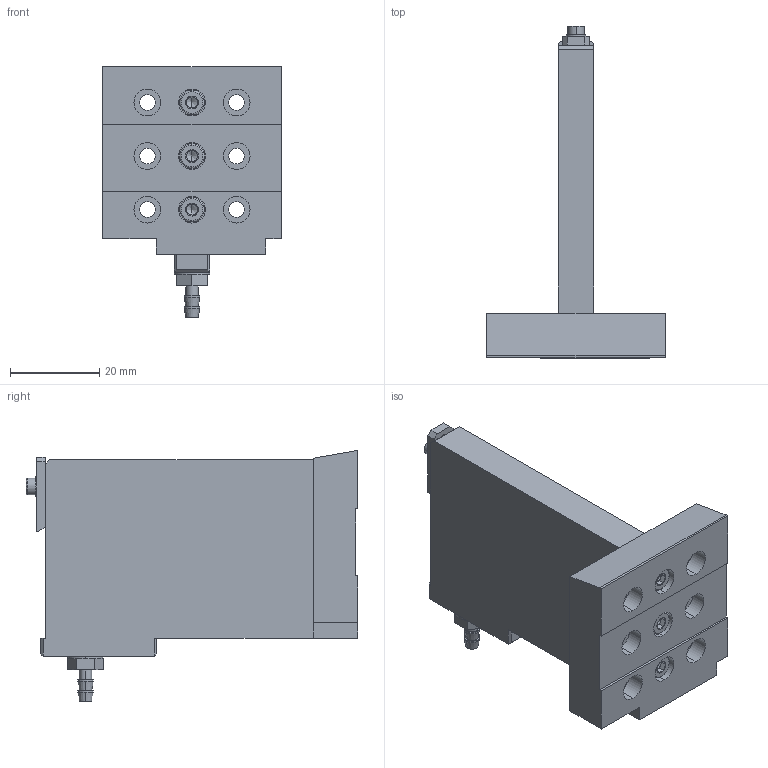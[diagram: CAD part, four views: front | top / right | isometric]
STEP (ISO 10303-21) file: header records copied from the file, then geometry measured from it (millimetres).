
FILE_DESCRIPTION (( 'STEP AP203' ), '1' );
FILE_NAME ('E400-8.STEP', '2023-03-22T02:35:05', ( '' ), ( '' ), 'SwSTEP 2.0', 'SolidWorks 2017', '' );
FILE_SCHEMA (( 'CONFIG_CONTROL_DESIGN' ));
Length unit declared in the file: millimetre
Products named in the file (7): E400-8; E400-8-prt1; E400-8-prt3; E400-8-prt4; E400-8-prt5; E400-8-prt2; E400-8-prt0
Assembly tree (6 placements, depth 2):
  E400-8
    E400-8-prt0
    E400-8-prt1
    E400-8-prt2
    E400-8-prt3
    E400-8-prt4
    E400-8-prt5
Bounding box: 40 x 74.3 x 56.1 mm (x, y, z)
Volume: 33986.8 mm3; surface area: 14429.6 mm2
Topology: 6 solids, 17 shells, 540 faces, 1141 edges, 634 vertices
Faces by surface type: plane 220, cylinder 144, bspline 108, torus 46, cone 22
Entity records: 15364 total; most frequent: CARTESIAN_POINT 3434, DIRECTION 2447, ORIENTED_EDGE 2210, EDGE_CURVE 1105, AXIS2_PLACEMENT_3D 963, VERTEX_POINT 634, EDGE_LOOP 609, ADVANCED_FACE 540
